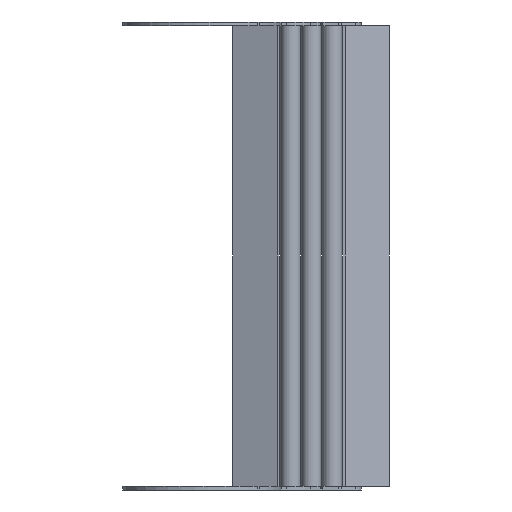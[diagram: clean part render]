
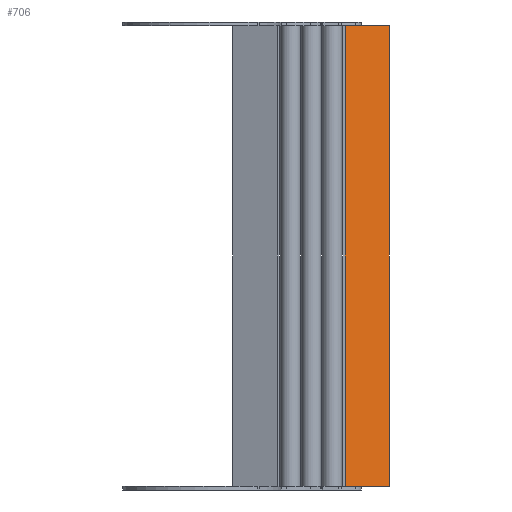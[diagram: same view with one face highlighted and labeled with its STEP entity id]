
A CAD part, front view. The second image highlights one B-rep face of the part: STEP entity #706.
In plain terms, the highlighted planar face has unit normal (0.342, -0.94, 0).
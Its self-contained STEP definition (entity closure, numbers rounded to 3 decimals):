
#83 = CARTESIAN_POINT ( 'NONE',  ( 108.255, 61.65, -348. ) ) ;
#129 = LINE ( 'NONE', #6344, #5921 ) ;
#143 = EDGE_CURVE ( 'NONE', #4186, #3452, #6995, .T. ) ;
#221 = CARTESIAN_POINT ( 'NONE',  ( 108.255, 61.65, 0. ) ) ;
#453 = VERTEX_POINT ( 'NONE', #5600 ) ;
#578 = VECTOR ( 'NONE', #1708, 1000. ) ;
#632 = ORIENTED_EDGE ( 'NONE', *, *, #143, .T. ) ;
#706 = ADVANCED_FACE ( 'NONE', ( #4481 ), #3518, .F. ) ;
#724 = AXIS2_PLACEMENT_3D ( 'NONE', #6248, #3563, #6902 ) ;
#774 = ORIENTED_EDGE ( 'NONE', *, *, #3485, .T. ) ;
#829 = LINE ( 'NONE', #3651, #1207 ) ;
#923 = DIRECTION ( 'NONE',  ( 0., 0., 1. ) ) ;
#1017 = CARTESIAN_POINT ( 'NONE',  ( 108.255, 61.65, -348. ) ) ;
#1038 = CARTESIAN_POINT ( 'NONE',  ( 141.6, 73.787, -348. ) ) ;
#1207 = VECTOR ( 'NONE', #923, 1000. ) ;
#1231 = VERTEX_POINT ( 'NONE', #6473 ) ;
#1484 = VERTEX_POINT ( 'NONE', #1579 ) ;
#1579 = CARTESIAN_POINT ( 'NONE',  ( 114.569, 63.948, -348. ) ) ;
#1708 = DIRECTION ( 'NONE',  ( -0.94, -0.342, 0. ) ) ;
#2003 = ORIENTED_EDGE ( 'NONE', *, *, #4784, .T. ) ;
#2592 = EDGE_CURVE ( 'NONE', #1484, #453, #5692, .T. ) ;
#2681 = EDGE_CURVE ( 'NONE', #3277, #1484, #3120, .T. ) ;
#3120 = LINE ( 'NONE', #83, #578 ) ;
#3277 = VERTEX_POINT ( 'NONE', #1038 ) ;
#3443 = CARTESIAN_POINT ( 'NONE',  ( 108.255, 61.65, 0. ) ) ;
#3452 = VERTEX_POINT ( 'NONE', #5567 ) ;
#3485 = EDGE_CURVE ( 'NONE', #3277, #4186, #129, .T. ) ;
#3518 = PLANE ( 'NONE',  #724 ) ;
#3563 = DIRECTION ( 'NONE',  ( -0.342, 0.94, 0. ) ) ;
#3651 = CARTESIAN_POINT ( 'NONE',  ( 108.255, 61.65, -348. ) ) ;
#3708 = ORIENTED_EDGE ( 'NONE', *, *, #2592, .F. ) ;
#3839 = EDGE_LOOP ( 'NONE', ( #632, #2003, #6924, #3708, #6459, #774 ) ) ;
#4186 = VERTEX_POINT ( 'NONE', #6336 ) ;
#4481 = FACE_OUTER_BOUND ( 'NONE', #3839, .T. ) ;
#4601 = VECTOR ( 'NONE', #5638, 1000. ) ;
#4784 = EDGE_CURVE ( 'NONE', #3452, #1231, #4817, .T. ) ;
#4817 = LINE ( 'NONE', #221, #6691 ) ;
#4943 = EDGE_CURVE ( 'NONE', #453, #1231, #829, .T. ) ;
#5216 = DIRECTION ( 'NONE',  ( -0.94, -0.342, 0. ) ) ;
#5297 = DIRECTION ( 'NONE',  ( 0., 0., 1. ) ) ;
#5456 = DIRECTION ( 'NONE',  ( -0.94, -0.342, 0. ) ) ;
#5567 = CARTESIAN_POINT ( 'NONE',  ( 114.569, 63.948, 0. ) ) ;
#5600 = CARTESIAN_POINT ( 'NONE',  ( 108.255, 61.65, -348. ) ) ;
#5638 = DIRECTION ( 'NONE',  ( -0.94, -0.342, 0. ) ) ;
#5692 = LINE ( 'NONE', #1017, #6983 ) ;
#5921 = VECTOR ( 'NONE', #5297, 1000. ) ;
#6248 = CARTESIAN_POINT ( 'NONE',  ( 108.255, 61.65, -348. ) ) ;
#6336 = CARTESIAN_POINT ( 'NONE',  ( 141.6, 73.787, 0. ) ) ;
#6344 = CARTESIAN_POINT ( 'NONE',  ( 141.6, 73.787, -348. ) ) ;
#6459 = ORIENTED_EDGE ( 'NONE', *, *, #2681, .F. ) ;
#6473 = CARTESIAN_POINT ( 'NONE',  ( 108.255, 61.65, 0. ) ) ;
#6691 = VECTOR ( 'NONE', #5216, 1000. ) ;
#6902 = DIRECTION ( 'NONE',  ( -0.94, -0.342, 0. ) ) ;
#6924 = ORIENTED_EDGE ( 'NONE', *, *, #4943, .F. ) ;
#6983 = VECTOR ( 'NONE', #5456, 1000. ) ;
#6995 = LINE ( 'NONE', #3443, #4601 ) ;
